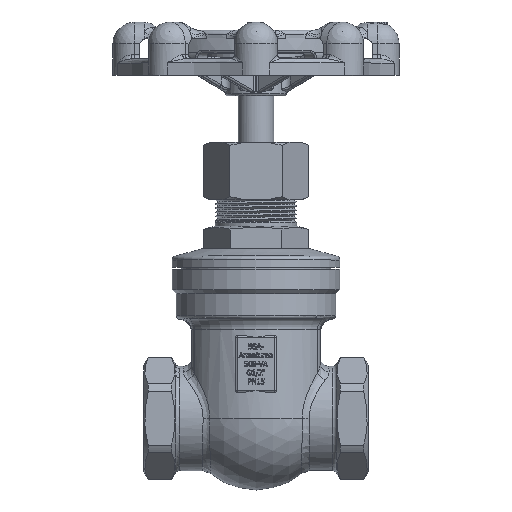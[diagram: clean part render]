
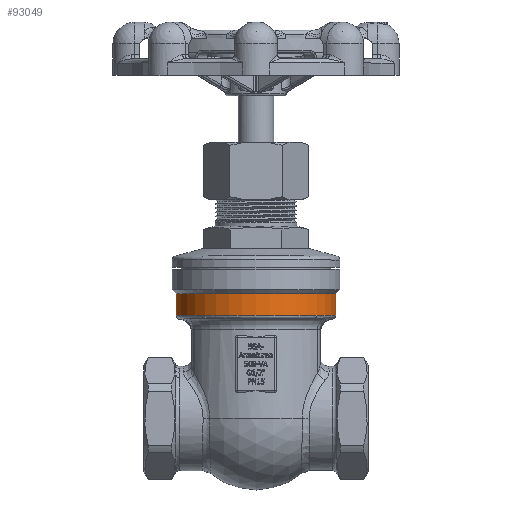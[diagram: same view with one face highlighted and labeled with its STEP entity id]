
A CAD part, top view. The second image highlights one B-rep face of the part: STEP entity #93049.
In plain terms, the highlighted cylindrical face has radius 19.5 mm (diameter 39 mm), a full revolution.
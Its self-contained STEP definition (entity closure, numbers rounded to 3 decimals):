
#92247=CARTESIAN_POINT('',(48.245,62.545,-20.5));
#92248=VERTEX_POINT('',#92247);
#92249=CARTESIAN_POINT('',(28.745,62.545,-20.5));
#92250=DIRECTION('',(0.0,-1.0,0.0));
#92251=DIRECTION('',(-1.0,0.0,0.0));
#92252=AXIS2_PLACEMENT_3D('',#92249,#92250,#92251);
#92253=CIRCLE('',#92252,19.5);
#92254=EDGE_CURVE('',#92248,#92248,#92253,.T.);
#93030=CARTESIAN_POINT('',(28.745,37.3,-20.5));
#93031=DIRECTION('',(0.0,1.0,0.0));
#93032=DIRECTION('',(-1.0,0.0,0.0));
#93033=AXIS2_PLACEMENT_3D('',#93030,#93031,#93032);
#93034=CYLINDRICAL_SURFACE('',#93033,19.5);
#93035=ORIENTED_EDGE('',*,*,#92254,.F.);
#93036=EDGE_LOOP('',(#93035));
#93037=FACE_OUTER_BOUND('',#93036,.T.);
#93038=CARTESIAN_POINT('',(9.245,67.8,-20.5));
#93039=VERTEX_POINT('',#93038);
#93040=CARTESIAN_POINT('',(28.745,67.8,-20.5));
#93041=DIRECTION('',(0.0,1.0,0.0));
#93042=DIRECTION('',(-1.0,0.0,0.0));
#93043=AXIS2_PLACEMENT_3D('',#93040,#93041,#93042);
#93044=CIRCLE('',#93043,19.5);
#93045=EDGE_CURVE('',#93039,#93039,#93044,.T.);
#93046=ORIENTED_EDGE('',*,*,#93045,.F.);
#93047=EDGE_LOOP('',(#93046));
#93048=FACE_BOUND('',#93047,.T.);
#93049=ADVANCED_FACE('',(#93037,#93048),#93034,.T.);
